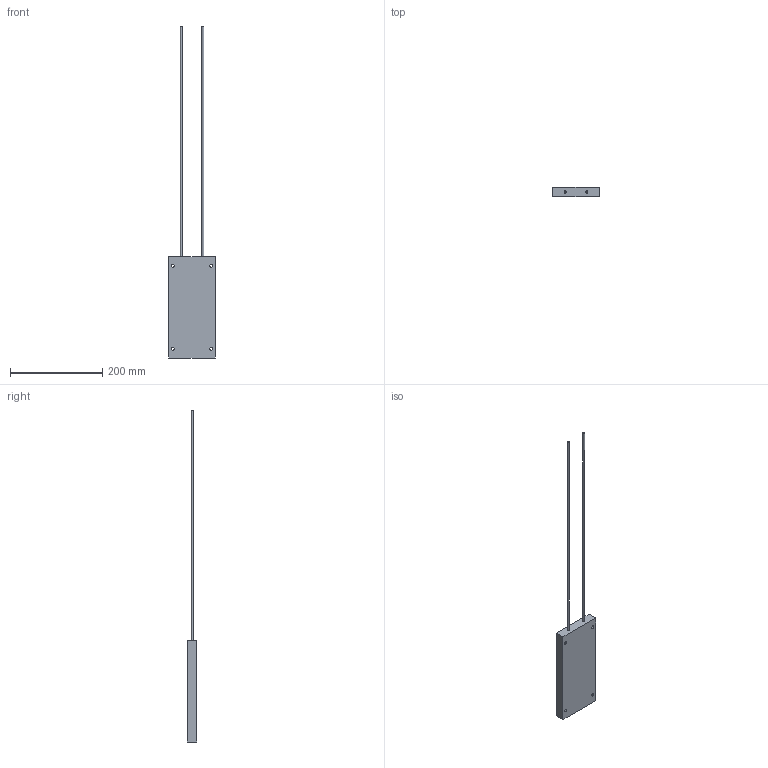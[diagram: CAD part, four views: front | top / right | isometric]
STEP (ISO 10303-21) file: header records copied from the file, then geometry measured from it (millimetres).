
FILE_DESCRIPTION(/* description */ (''),/* implementation_level */ '2;1');
FILE_NAME(/* name */ 'C:\_Vault\Dati\CATALOGO\RFD\RFD550.stp',/* time_stamp */ '2014-03-24T16:43:41+01:00',/* author */ ('stefano'),/* organization */ (''),/* preprocessor_version */ 'ST-DEVELOPER v15.2',/* originating_system */ 'Autodesk Inventor 2014',/* authorisation */ '');
FILE_SCHEMA (('AUTOMOTIVE_DESIGN { 1 0 10303 214 3 1 1 }'));
Length unit declared in the file: millimetre
Products named in the file (1): RFD550
Bounding box: 100 x 20 x 720.1 mm (x, y, z)
Volume: 450073.2 mm3; surface area: 70701.6 mm2
Topology: 1 solids, 1 shells, 18 faces, 40 edges, 28 vertices
Faces by surface type: plane 10, cylinder 8
Full cylindrical faces by diameter (mm): 2 x2, 4 x2, 6.3 x4
Entity records: 526 total; most frequent: DIRECTION 82, CARTESIAN_POINT 71, ORIENTED_EDGE 56, EDGE_LOOP 38, AXIS2_PLACEMENT_3D 35, EDGE_CURVE 28, FACE_BOUND 25, VERTEX_POINT 24
